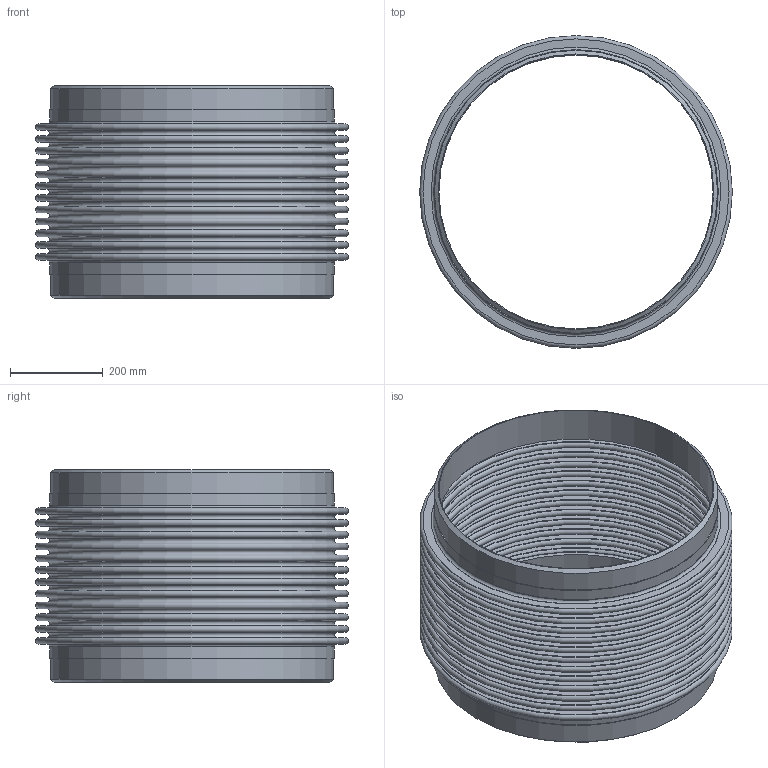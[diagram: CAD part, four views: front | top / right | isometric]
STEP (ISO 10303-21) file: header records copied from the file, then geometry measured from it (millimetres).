
FILE_DESCRIPTION(/* description */ ('EXPANSION JOINT,SINGLE, WELD ENDS,4 INCH NOMINAL'),/* implementation_level */ '2;1');
FILE_NAME(/* name */ 'ASSEMBLY US-24-12-150L.stp',/* time_stamp */ '2026-07-30T08:23:45-05:00',/* author */ ('jorgef'),/* organization */ (''),/* preprocessor_version */ 'ST-DEVELOPER v20.1',/* originating_system */ 'Autodesk Inventor 2026',/* authorisation */ '');
FILE_SCHEMA (('AUTOMOTIVE_DESIGN { 1 0 10303 214 3 1 1 }'));
Length unit declared in the file: inch
Products named in the file (3): ASSEMBLY  US-24-12-150L; STOCK BELLOW - US-24-12-150L; PIPE- US-24-12-150L
Assembly tree (3 placements, depth 2):
  ASSEMBLY  US-24-12-150L
    STOCK BELLOW - US-24-12-150L
    PIPE- US-24-12-150L  x2
Bounding box: 673.1 x 673.1 x 457.2 mm (x, y, z)
Volume: 5555166.5 mm3; surface area: 4467879 mm2
Topology: 5 solids, 5 shells, 118 faces, 180 edges, 121 vertices
Faces by surface type: plane 58, torus 50, cylinder 8, cone 2
Full cylindrical faces by diameter (mm): 590.55 x2, 609.6 x4, 612.648 x2
Entity records: 2769 total; most frequent: DIRECTION 573, CARTESIAN_POINT 405, ORIENTED_EDGE 342, AXIS2_PLACEMENT_3D 283, EDGE_CURVE 171, EDGE_LOOP 169, CIRCLE 164, VERTEX_POINT 114
